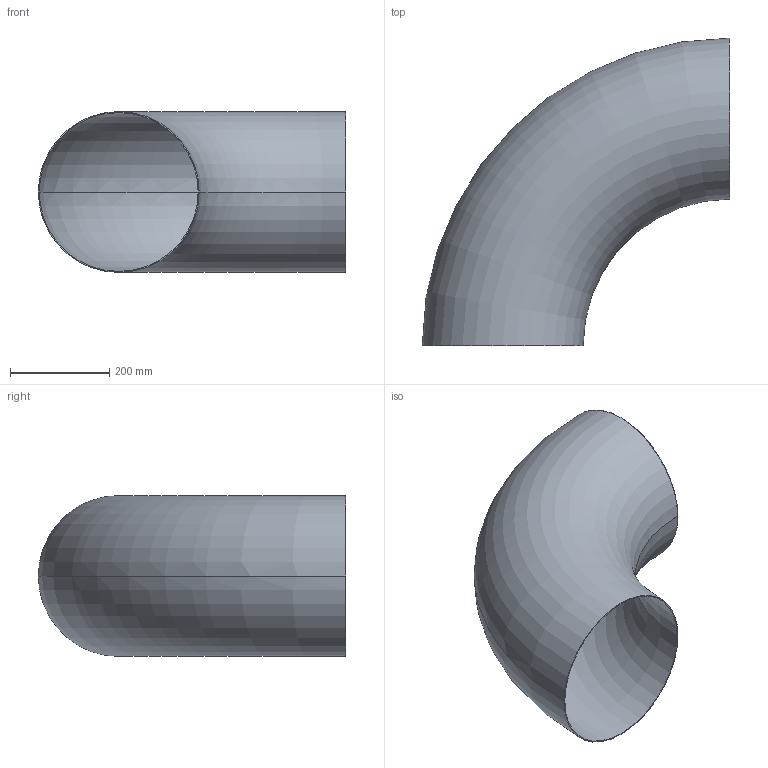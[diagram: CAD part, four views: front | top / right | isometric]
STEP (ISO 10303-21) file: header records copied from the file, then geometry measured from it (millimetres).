
FILE_DESCRIPTION (( 'STEP AP203' ), '1' );
FILE_NAME ('OT200-300-323_9x2_OSTP.step', '2020-12-16T03:04:11', ( '' ), ( '' ), 'SwSTEP 2.0', 'SolidWorks 2014', '' );
FILE_SCHEMA (( 'CONFIG_CONTROL_DESIGN' ));
Length unit declared in the file: millimetre
Products named in the file (1): OT200-300-323_9x2_OSTP
Bounding box: 618.95 x 618.95 x 323.9 mm (x, y, z)
Volume: 1451900.7 mm3; surface area: 1455945.8 mm2
Topology: 1 solids, 1 shells, 6 faces, 12 edges, 8 vertices
Faces by surface type: torus 4, plane 2
Entity records: 249 total; most frequent: DIRECTION 38, CARTESIAN_POINT 27, ORIENTED_EDGE 24, AXIS2_PLACEMENT_3D 19, CIRCLE 12, EDGE_CURVE 12, EDGE_LOOP 8, PERSON_AND_ORGANIZATION 8
